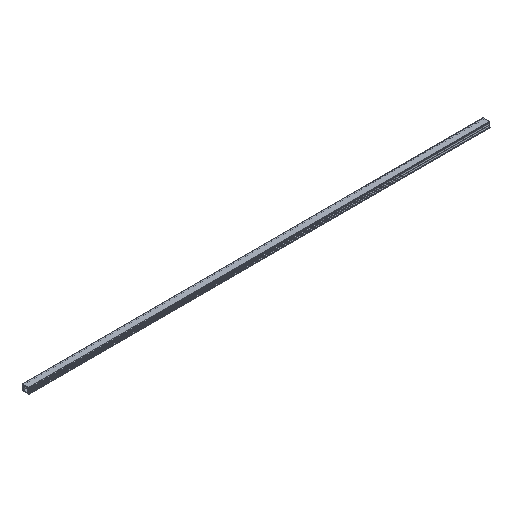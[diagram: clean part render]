
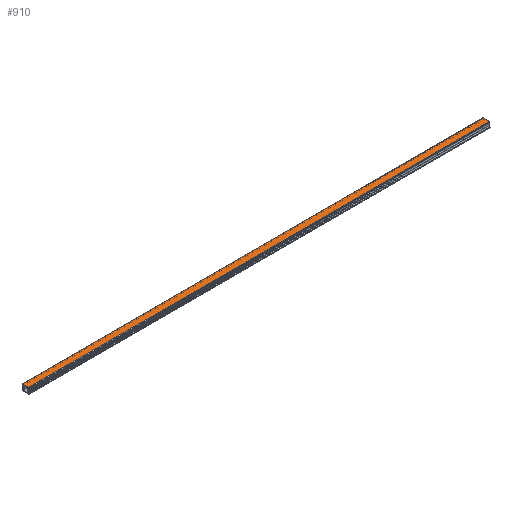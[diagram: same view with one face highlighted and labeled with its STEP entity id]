
A CAD part, isometric view. The second image highlights one B-rep face of the part: STEP entity #910.
In plain terms, the highlighted planar face has unit normal (0, 0, 1).
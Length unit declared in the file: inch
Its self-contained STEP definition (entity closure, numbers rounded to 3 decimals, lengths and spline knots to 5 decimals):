
#256=DIRECTION('',(0.,-1.,0.));
#257=VECTOR('',#256,0.66129);
#258=CARTESIAN_POINT('',(24.,0.33065,0.29528));
#259=LINE('',#258,#257);
#405=DIRECTION('',(-1.,0.,0.));
#406=VECTOR('',#405,48.);
#407=CARTESIAN_POINT('',(24.,-0.33065,0.29528));
#408=LINE('',#407,#406);
#413=DIRECTION('',(0.,-1.,0.));
#414=VECTOR('',#413,0.66129);
#415=CARTESIAN_POINT('',(-24.,0.33065,0.29528));
#416=LINE('',#415,#414);
#421=DIRECTION('',(1.,0.,0.));
#422=VECTOR('',#421,48.);
#423=CARTESIAN_POINT('',(-24.,0.33065,0.29528));
#424=LINE('',#423,#422);
#520=CARTESIAN_POINT('',(24.,0.33065,0.29528));
#522=VERTEX_POINT('',#520);
#558=CARTESIAN_POINT('',(-24.,-0.33065,0.29528));
#559=VERTEX_POINT('',#558);
#560=CARTESIAN_POINT('',(-24.,0.33065,0.29528));
#561=VERTEX_POINT('',#560);
#593=CARTESIAN_POINT('',(24.,-0.33065,0.29528));
#594=VERTEX_POINT('',#593);
#898=CARTESIAN_POINT('',(24.,0.,0.29528));
#899=DIRECTION('',(0.,0.,1.));
#900=DIRECTION('',(1.,0.,0.));
#901=AXIS2_PLACEMENT_3D('',#898,#899,#900);
#902=PLANE('',#901);
#903=ORIENTED_EDGE('',*,*,#660,.F.);
#905=ORIENTED_EDGE('',*,*,#904,.T.);
#906=ORIENTED_EDGE('',*,*,#771,.T.);
#907=ORIENTED_EDGE('',*,*,#891,.T.);
#908=EDGE_LOOP('',(#903,#905,#906,#907));
#909=FACE_OUTER_BOUND('',#908,.F.);
#660=EDGE_CURVE('',#561,#559,#416,.T.);
#771=EDGE_CURVE('',#522,#594,#259,.T.);
#891=EDGE_CURVE('',#594,#559,#408,.T.);
#904=EDGE_CURVE('',#561,#522,#424,.T.);
#910=ADVANCED_FACE('',(#909),#902,.T.);
